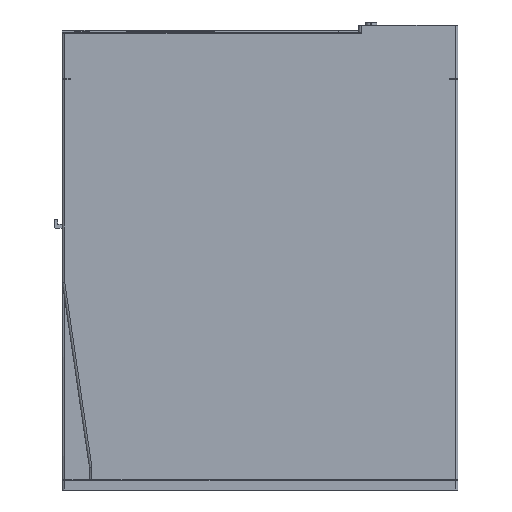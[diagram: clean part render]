
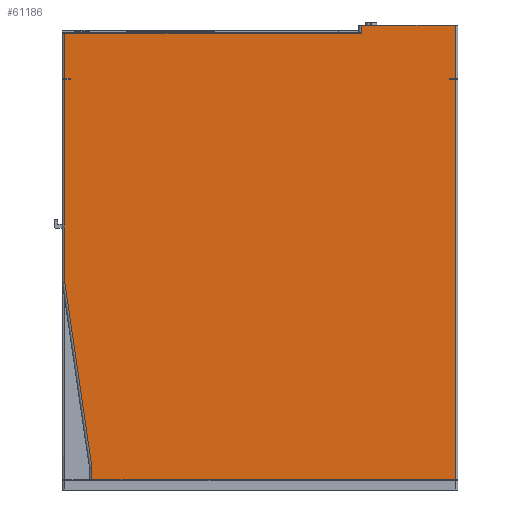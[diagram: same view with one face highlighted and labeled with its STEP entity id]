
A CAD part, left-side view. The second image highlights one B-rep face of the part: STEP entity #61186.
In plain terms, the highlighted planar face has unit normal (-1, 0, 0).
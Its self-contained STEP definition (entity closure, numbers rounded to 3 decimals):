
#2859=DIRECTION('',(0.,1.,0.));
#2860=VECTOR('',#2859,2.461);
#2861=CARTESIAN_POINT('',(-40.,-79.,-18.));
#2862=LINE('',#2861,#2860);
#2867=DIRECTION('',(0.,1.,0.));
#2868=VECTOR('',#2867,2.254);
#2869=CARTESIAN_POINT('',(-40.,76.746,-18.));
#2870=LINE('',#2869,#2868);
#2919=DIRECTION('',(0.,0.,1.));
#2920=VECTOR('',#2919,0.25);
#2921=CARTESIAN_POINT('',(-40.,-76.539,-18.));
#2922=LINE('',#2921,#2920);
#2923=DIRECTION('',(0.,1.,0.));
#2924=VECTOR('',#2923,147.);
#2925=CARTESIAN_POINT('',(-40.,-79.,-179.9));
#2926=LINE('',#2925,#2924);
#2927=DIRECTION('',(0.,0.145,0.989));
#2928=VECTOR('',#2927,75.802);
#2929=CARTESIAN_POINT('',(-40.,68.,-174.927));
#2930=LINE('',#2929,#2928);
#2931=DIRECTION('',(0.,0.,-1.));
#2932=VECTOR('',#2931,0.25);
#2933=CARTESIAN_POINT('',(-40.,76.746,-17.75));
#2934=LINE('',#2933,#2932);
#2935=DIRECTION('',(0.,1.,0.));
#2936=VECTOR('',#2935,2.254);
#2937=CARTESIAN_POINT('',(-40.,76.746,-17.75));
#2938=LINE('',#2937,#2936);
#2939=DIRECTION('',(0.,1.,0.));
#2940=VECTOR('',#2939,2.461);
#2941=CARTESIAN_POINT('',(-40.,-79.,-17.75));
#2942=LINE('',#2941,#2940);
#2947=DIRECTION('',(0.,0.,1.));
#2948=VECTOR('',#2947,161.9);
#2949=CARTESIAN_POINT('',(-40.,-79.,-179.9));
#2950=LINE('',#2949,#2948);
#9371=DIRECTION('',(0.,-1.,0.));
#9372=VECTOR('',#9371,38.);
#9373=CARTESIAN_POINT('',(-40.,-41.,4.));
#9374=LINE('',#9373,#9372);
#9582=DIRECTION('',(0.,0.,1.));
#9583=VECTOR('',#9582,21.75);
#9584=CARTESIAN_POINT('',(-40.,-79.,-17.75));
#9585=LINE('',#9584,#9583);
#9758=DIRECTION('',(0.,0.,-1.));
#9759=VECTOR('',#9758,3.3);
#9760=CARTESIAN_POINT('',(-40.,-41.,4.));
#9761=LINE('',#9760,#9759);
#9775=DIRECTION('',(0.,1.,0.));
#9776=VECTOR('',#9775,120.);
#9777=CARTESIAN_POINT('',(-40.,-41.,0.7));
#9778=LINE('',#9777,#9776);
#9822=DIRECTION('',(0.,0.,-1.));
#9823=VECTOR('',#9822,18.45);
#9824=CARTESIAN_POINT('',(-40.,79.,0.7));
#9825=LINE('',#9824,#9823);
#29294=DIRECTION('',(0.,0.,-1.));
#29295=VECTOR('',#29294,81.927);
#29296=CARTESIAN_POINT('',(-40.,79.,-18.));
#29297=LINE('',#29296,#29295);
#29320=DIRECTION('',(0.,0.,-1.));
#29321=VECTOR('',#29320,4.973);
#29322=CARTESIAN_POINT('',(-40.,68.,-174.927));
#29323=LINE('',#29322,#29321);
#47553=CARTESIAN_POINT('',(-40.,-79.,-17.75));
#47555=VERTEX_POINT('',#47553);
#47561=CARTESIAN_POINT('',(-40.,79.,0.7));
#47562=CARTESIAN_POINT('',(-40.,79.,-17.75));
#47563=VERTEX_POINT('',#47561);
#47564=VERTEX_POINT('',#47562);
#47565=CARTESIAN_POINT('',(-40.,-41.,0.7));
#47566=VERTEX_POINT('',#47565);
#51790=CARTESIAN_POINT('',(-40.,-79.,-179.9));
#51791=CARTESIAN_POINT('',(-40.,68.,-179.9));
#51792=VERTEX_POINT('',#51790);
#51793=VERTEX_POINT('',#51791);
#51794=CARTESIAN_POINT('',(-40.,68.,-174.927));
#51795=VERTEX_POINT('',#51794);
#51796=CARTESIAN_POINT('',(-40.,79.,-99.927));
#51797=VERTEX_POINT('',#51796);
#51798=CARTESIAN_POINT('',(-40.,79.,-18.));
#51799=VERTEX_POINT('',#51798);
#51800=CARTESIAN_POINT('',(-40.,-79.,-18.));
#51801=VERTEX_POINT('',#51800);
#54686=CARTESIAN_POINT('',(-40.,-79.,4.));
#54688=VERTEX_POINT('',#54686);
#54695=CARTESIAN_POINT('',(-40.,-41.,4.));
#54697=VERTEX_POINT('',#54695);
#56170=CARTESIAN_POINT('',(-40.,-76.539,-17.75));
#56172=VERTEX_POINT('',#56170);
#56187=CARTESIAN_POINT('',(-40.,76.746,-17.75));
#56189=VERTEX_POINT('',#56187);
#56339=CARTESIAN_POINT('',(-40.,-76.539,-18.));
#56340=VERTEX_POINT('',#56339);
#56341=CARTESIAN_POINT('',(-40.,76.746,-18.));
#56342=VERTEX_POINT('',#56341);
#61151=CARTESIAN_POINT('',(-40.,80.,0.));
#61152=DIRECTION('',(-1.,0.,0.));
#61153=DIRECTION('',(0.,1.,0.));
#61154=AXIS2_PLACEMENT_3D('',#61151,#61152,#61153);
#61155=PLANE('',#61154);
#61156=ORIENTED_EDGE('',*,*,#57927,.F.);
#61157=ORIENTED_EDGE('',*,*,#61065,.F.);
#61159=ORIENTED_EDGE('',*,*,#61158,.F.);
#61161=ORIENTED_EDGE('',*,*,#61160,.T.);
#61163=ORIENTED_EDGE('',*,*,#61162,.F.);
#61165=ORIENTED_EDGE('',*,*,#61164,.T.);
#61167=ORIENTED_EDGE('',*,*,#61166,.F.);
#61168=ORIENTED_EDGE('',*,*,#61077,.F.);
#61170=ORIENTED_EDGE('',*,*,#61169,.F.);
#61172=ORIENTED_EDGE('',*,*,#61171,.T.);
#61174=ORIENTED_EDGE('',*,*,#61173,.F.);
#61176=ORIENTED_EDGE('',*,*,#61175,.F.);
#61178=ORIENTED_EDGE('',*,*,#61177,.F.);
#61180=ORIENTED_EDGE('',*,*,#61179,.T.);
#61182=ORIENTED_EDGE('',*,*,#61181,.F.);
#61183=ORIENTED_EDGE('',*,*,#61136,.T.);
#61184=EDGE_LOOP('',(#61156,#61157,#61159,#61161,#61163,#61165,#61167,#61168,
#61170,#61172,#61174,#61176,#61178,#61180,#61182,#61183));
#61185=FACE_OUTER_BOUND('',#61184,.F.);
#57927=EDGE_CURVE('',#56340,#56172,#2922,.T.);
#61065=EDGE_CURVE('',#51801,#56340,#2862,.T.);
#61077=EDGE_CURVE('',#56342,#51799,#2870,.T.);
#61136=EDGE_CURVE('',#47555,#56172,#2942,.T.);
#61158=EDGE_CURVE('',#51792,#51801,#2950,.T.);
#61160=EDGE_CURVE('',#51792,#51793,#2926,.T.);
#61162=EDGE_CURVE('',#51795,#51793,#29323,.T.);
#61164=EDGE_CURVE('',#51795,#51797,#2930,.T.);
#61166=EDGE_CURVE('',#51799,#51797,#29297,.T.);
#61169=EDGE_CURVE('',#56189,#56342,#2934,.T.);
#61171=EDGE_CURVE('',#56189,#47564,#2938,.T.);
#61173=EDGE_CURVE('',#47563,#47564,#9825,.T.);
#61175=EDGE_CURVE('',#47566,#47563,#9778,.T.);
#61177=EDGE_CURVE('',#54697,#47566,#9761,.T.);
#61179=EDGE_CURVE('',#54697,#54688,#9374,.T.);
#61181=EDGE_CURVE('',#47555,#54688,#9585,.T.);
#61186=ADVANCED_FACE('',(#61185),#61155,.T.);
